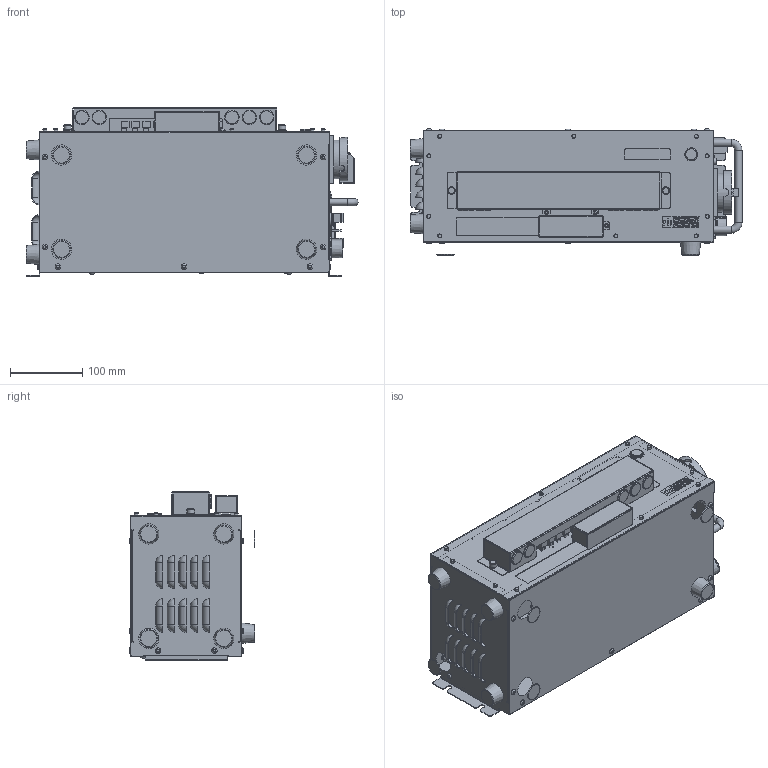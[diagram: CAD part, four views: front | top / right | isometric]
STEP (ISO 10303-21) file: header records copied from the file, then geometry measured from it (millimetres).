
FILE_DESCRIPTION(/* description */ (''),/* implementation_level */ '2;1');
FILE_NAME(/* name */ 'RB Series Control Box(CB09).stp',/* time_stamp */ '2026-01-09T10:13:58+09:00',/* author */ ('KiWook.H'),/* organization */ (''),/* preprocessor_version */ 'ST-DEVELOPER v20',/* originating_system */ 'Autodesk Inventor 2025',/* authorisation */ '');
FILE_SCHEMA (('AUTOMOTIVE_DESIGN { 1 0 10303 214 3 1 1 }'));
Products named in the file (1): RB Series Control Box(CB09)
Bounding box: 458 x 173.7 x 232 mm (x, y, z)
Volume: 12126240.3 mm3; surface area: 693724.3 mm2
Topology: 2 solids, 3865 shells, 7038 faces, 28752 edges, 25805 vertices
Faces by surface type: plane 5905, cylinder 711, bspline 137, torus 108, sphere 98, cone 79
Full cylindrical faces by diameter (mm): 1 x1, 2 x14, 2.2 x1, 2.5 x5, 3 x3, 3.9 x4, 4 x14, 5.3 x21, 5.5 x10, 5.6 x4, 5.7 x6, 7 x2, 7.6 x28, 8.48 x2, 8.5 x2, 10 x3, 10.5 x2, 14 x1, 16 x1, 17 x1, 17.083 x2, 17.5 x1, 18 x3, 19 x2, 20 x10, 46.6 x1, 48 x1, 53.4 x1
Entity records: 322298 total; most frequent: CARTESIAN_POINT 84849, DIRECTION 43559, ORIENTED_EDGE 37790, EDGE_CURVE 28708, VERTEX_POINT 25804, LINE 25619, VECTOR 25619, AXIS2_PLACEMENT_3D 8970
